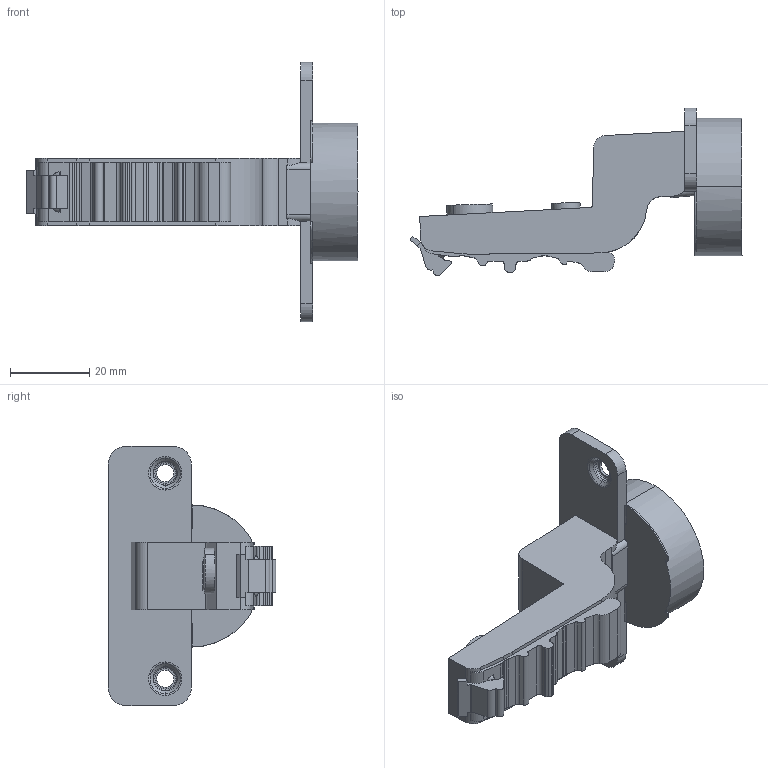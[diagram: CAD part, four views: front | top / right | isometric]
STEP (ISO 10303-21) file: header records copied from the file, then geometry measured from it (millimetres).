
FILE_DESCRIPTION (( 'STEP AP203' ), '1' );
FILE_NAME ('C82C677FA-DTC 3D close.STEP', '2024-07-10T09:06:10', ( '微软用户' ), ( '微软中国' ), 'SwSTEP 2.0', 'SolidWorks 2021', '' );
FILE_SCHEMA (( 'CONFIG_CONTROL_DESIGN' ));
Length unit declared in the file: millimetre
Products named in the file (1): C82C677FA-DTC 3D close
Bounding box: 84 x 42.33 x 65.56 mm (x, y, z)
Volume: 33883.1 mm3; surface area: 10923.5 mm2
Topology: 1 solids, 2 shells, 195 faces, 533 edges, 348 vertices
Faces by surface type: cylinder 82, plane 73, torus 24, cone 8, bspline 8
Entity records: 6544 total; most frequent: CARTESIAN_POINT 1479, ORIENTED_EDGE 1066, DIRECTION 1063, EDGE_CURVE 533, AXIS2_PLACEMENT_3D 398, VERTEX_POINT 348, LINE 267, VECTOR 267
